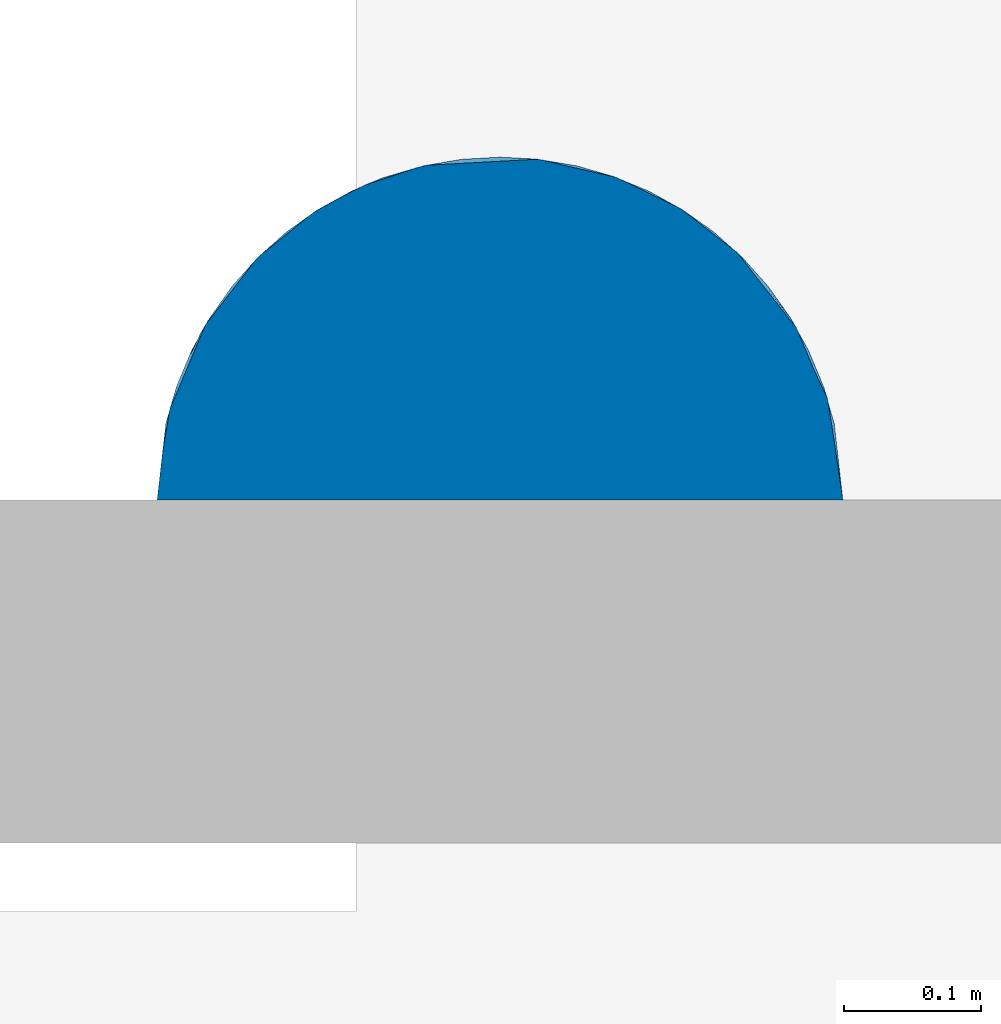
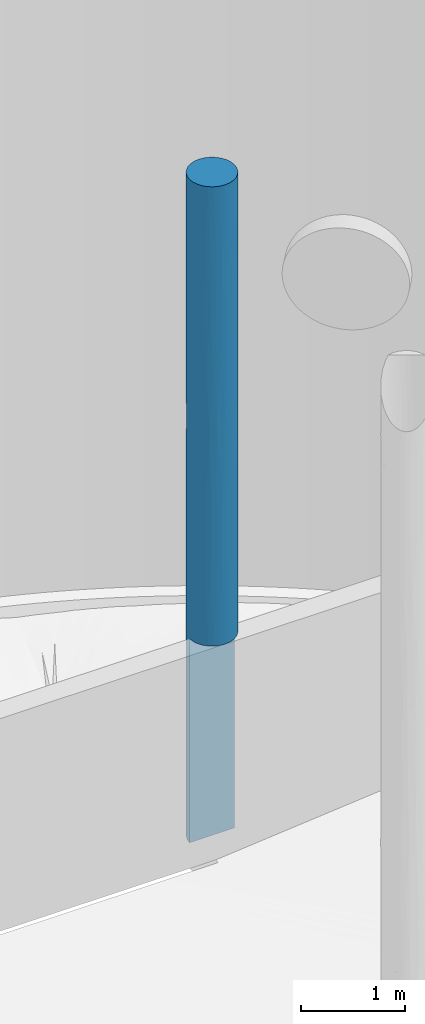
# One storey, part 3 of 5: 1 column.
"""IFC2X3 building model written with IfcOpenShell, lengths in centimetres."""

from ifc_helpers import new_model, entity, si_unit, converted_unit, derived_unit, direction, frame, origin, place, context, subcontext, project, spatial, faceted_brep, source, transform, mapped, material, type_object, type_shapes, element, save


model = new_model("IFC2X3")

# Units and contexts
model_context = context("Model", 3, precision=0.001, world=origin(), true_north=direction((6.12303176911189e-17, 1.0)))
body_context = subcontext(model_context, "Body", "Model", "MODEL_VIEW")
ifc_project = project(units=[si_unit("LENGTHUNIT", "METRE", prefix="CENTI"), si_unit("AREAUNIT", "SQUARE_METRE"), si_unit("VOLUMEUNIT", "CUBIC_METRE"), converted_unit("PLANEANGLEUNIT", "DEGREE", entity("IfcRatioMeasure", 0.0174532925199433), si_unit("PLANEANGLEUNIT", "RADIAN"), dimensions=[0, 0, 0, 0, 0, 0, 0]), si_unit("MASSUNIT", "GRAM", prefix="KILO"), derived_unit("MASSDENSITYUNIT", [(si_unit("MASSUNIT", "GRAM", prefix="KILO"), 1), (si_unit("LENGTHUNIT", "METRE"), -3)]), si_unit("TIMEUNIT", "SECOND"), si_unit("FREQUENCYUNIT", "HERTZ"), si_unit("THERMODYNAMICTEMPERATUREUNIT", "DEGREE_CELSIUS"), derived_unit("THERMALTRANSMITTANCEUNIT", [(si_unit("MASSUNIT", "GRAM", prefix="KILO"), 1), (si_unit("THERMODYNAMICTEMPERATUREUNIT", "KELVIN"), -1), (si_unit("TIMEUNIT", "SECOND"), -3)]), derived_unit("VOLUMETRICFLOWRATEUNIT", [(si_unit("LENGTHUNIT", "METRE"), 3), (si_unit("TIMEUNIT", "SECOND"), -1)]), si_unit("ELECTRICCURRENTUNIT", "AMPERE"), si_unit("ELECTRICVOLTAGEUNIT", "VOLT"), si_unit("POWERUNIT", "WATT"), si_unit("FORCEUNIT", "NEWTON", prefix="KILO"), si_unit("ILLUMINANCEUNIT", "LUX"), si_unit("LUMINOUSFLUXUNIT", "LUMEN"), si_unit("LUMINOUSINTENSITYUNIT", "CANDELA"), derived_unit("USERDEFINED", [(si_unit("MASSUNIT", "GRAM", prefix="KILO"), -1), (si_unit("LENGTHUNIT", "METRE"), -2), (si_unit("TIMEUNIT", "SECOND"), 3), (si_unit("LUMINOUSFLUXUNIT", "LUMEN"), 1)]), derived_unit("LINEARVELOCITYUNIT", [(si_unit("LENGTHUNIT", "METRE"), 1), (si_unit("TIMEUNIT", "SECOND"), -1)]), si_unit("PRESSUREUNIT", "PASCAL"), derived_unit("USERDEFINED", [(si_unit("LENGTHUNIT", "METRE"), -2), (si_unit("MASSUNIT", "GRAM", prefix="KILO"), 1), (si_unit("TIMEUNIT", "SECOND"), -2)])], contexts=[model_context])

# Site, building, storey
site_placement = place(None, origin())
site = spatial("IfcSite", under=ifc_project, at=site_placement, Name="Default", CompositionType="ELEMENT")
building_placement = place(site_placement, origin())
building = spatial("IfcBuilding", under=site, at=building_placement, CompositionType="ELEMENT")
storey_placement = place(building_placement, frame((0.0, 0.0, -870.0)))
storey = spatial("IfcBuildingStorey", under=building, at=storey_placement, Name="Niveau haut radier", CompositionType="ELEMENT", Elevation=-870.000000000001)

# Column
ifc_material = material(Name="Maçonnerie - Béton coulé sur place")
column_type = type_object("IfcColumnType", Name="500mm", PredefinedType="COLUMN")
shared_shape = source(origin(), body_context, "Body", "Brep", [
    faceted_brep([(25.1587499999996, 50.158749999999, 0.0), (30.7217733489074, 49.5319478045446, 0.0), (36.0058434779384, 47.6829716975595, 0.0), (40.7459950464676, 44.7045370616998, 0.0), (44.7045370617, 40.7459950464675, 0.0), (47.6829716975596, 36.0058434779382, 0.0), (49.5319478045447, 30.7217733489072, 0.0), (50.1587499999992, 25.1587499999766, 0.0), (0.158750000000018, 25.1587499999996, 0.0), (0.785552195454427, 30.7217733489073, 0.0), (2.63452830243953, 36.0058434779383, 0.0), (5.61296293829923, 40.7459950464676, 0.0), (9.57150495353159, 44.7045370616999, 0.0), (14.3116565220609, 47.6829716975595, 0.0), (19.5957266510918, 49.5319478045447, 0.0), (48.0549246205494, 35.196936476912, 468.894860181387), (45.3297754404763, 39.9279657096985, 499.978212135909), (48.5082267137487, 34.0919430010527, 556.771990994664), (28.7793310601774, 49.8951885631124, 427.9340429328), (31.6679698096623, 49.2964809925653, 489.80961798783), (33.4157264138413, 48.7558333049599, 390.0), (46.3268549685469, 38.4595519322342, 54.0877681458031), (27.9578618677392, 50.001555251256, 683.264679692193), (21.9944098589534, 49.9576804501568, 669.828678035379), (25.1587499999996, 50.158749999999, 780.0), (48.7558332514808, 33.4157265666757, 76.3591091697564), (20.5205377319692, 49.7247221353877, 343.351262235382), (16.4667614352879, 48.599085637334, 307.933922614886), (16.3862373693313, 48.5690687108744, 369.663796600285), (22.3596380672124, 50.0015552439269, 93.519181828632), (27.7986779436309, 50.0189748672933, 67.2587685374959), (3.99064500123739, 38.4595518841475, 597.386900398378), (9.14411541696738, 44.3559237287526, 577.977128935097), (8.53594770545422, 43.8317905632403, 513.810411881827), (33.4157265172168, 48.7558332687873, 76.3591094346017), (38.4595518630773, 46.3268550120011, 119.311207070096), (38.4595518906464, 46.3268549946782, 54.0877682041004), (47.6829716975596, 36.0058434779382, 780.0), (48.7558332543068, 33.4157265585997, 717.698396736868), (46.3268549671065, 38.4595519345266, 697.93955751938), (50.1587499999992, 25.1587499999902, 559.165217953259), (50.1587499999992, 25.1587499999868, 479.373913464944), (49.6742815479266, 30.056577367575, 510.855154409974), (16.901773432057, 48.7558332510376, 709.507864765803), (14.3116565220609, 47.6829716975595, 780.0), (19.5957266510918, 49.5319478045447, 780.0), (27.9578618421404, 50.0015552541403, 162.511981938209), (50.1587499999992, 25.1587499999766, 240.0), (49.8017239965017, 29.3687182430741, 279.895651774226), (50.1587499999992, 25.15874999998, 319.791304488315), (50.1587499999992, 25.1587499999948, 669.58260897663), (48.7558332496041, 33.4157265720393, 645.517373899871), (38.4595518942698, 46.3268549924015, 725.912231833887), (36.0058434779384, 47.6829716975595, 780.0), (40.7459950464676, 44.7045370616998, 780.0), (49.5319478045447, 30.7217733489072, 780.0), (7.48108045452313, 42.8364195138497, 677.780128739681), (5.61296293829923, 40.7459950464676, 780.0), (9.57150495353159, 44.7045370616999, 780.0), (0.834220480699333, 30.9308608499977, 188.484697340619), (0.158750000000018, 25.1587499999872, 110.417407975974), (0.158750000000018, 25.1587499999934, 175.208543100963), (0.158750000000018, 25.1587499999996, 240.0), (16.5978988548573, 48.6472967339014, 94.7210186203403), (24.0023493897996, 50.131990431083, 241.55338493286), (29.0742546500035, 49.8502226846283, 228.335237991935), (44.7045370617, 40.7459950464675, 780.0), (42.8364195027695, 42.8364195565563, 76.3591093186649), (46.3268549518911, 38.4595519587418, 119.311206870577), (11.8579480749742, 46.3268549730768, 59.7330104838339), (43.1044238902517, 42.5642890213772, 659.887667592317), (42.3348295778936, 43.3241646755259, 722.237216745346), (48.6937738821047, 33.5909887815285, 259.456015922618), (46.7383470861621, 37.7809918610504, 254.650441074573), (48.7408433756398, 33.4584410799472, 319.791305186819), (33.6551248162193, 48.6706962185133, 693.300512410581), (30.7217733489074, 49.5319478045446, 780.0), (33.6842402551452, 48.6601545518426, 153.413008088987), (50.1587499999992, 25.1587499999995, 780.0), (50.1587499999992, 25.158749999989, 110.417390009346), (1.56166673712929, 33.4157265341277, 103.339168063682), (1.5616667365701, 33.4157265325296, 677.780128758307), (0.571591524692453, 29.6833094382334, 614.373914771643), (0.158750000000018, 25.1587499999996, 669.582391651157), (31.4036444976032, 49.3662135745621, 631.577320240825), (27.9578618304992, 50.001555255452, 579.889960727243), (0.158750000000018, 25.1587499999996, 319.79144509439), (0.745295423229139, 30.5423580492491, 279.895652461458), (0.785552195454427, 30.7217733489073, 780.0), (0.158750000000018, 25.1587499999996, 700.209671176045), (0.158750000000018, 25.1587499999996, 780.0), (46.0769491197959, 38.8492191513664, 612.67412008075), (35.2154365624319, 48.0468048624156, 574.920058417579), (22.0004160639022, 49.9584461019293, 591.38083708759), (24.2576958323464, 50.1425067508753, 522.419313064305), (7.48108045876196, 42.8364195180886, 80.2190219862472), (11.8579480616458, 46.326854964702, 129.709026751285), (7.48897255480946, 42.8443080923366, 158.442496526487), (2.63452830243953, 36.0058434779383, 780.0), (19.5246383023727, 49.5156132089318, 167.805675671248), (3.84866567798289, 38.2308694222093, 69.7210057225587), (16.9017734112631, 48.7558332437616, 630.149491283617), (5.40763228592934, 40.4849807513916, 487.882534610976), (1.43813419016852, 33.0538361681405, 515.068583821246), (3.99064501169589, 38.4595519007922, 709.39370388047), (1.90363247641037, 34.3347790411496, 616.086547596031), (12.1973110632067, 46.536334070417, 669.828678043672), (42.4722370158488, 43.1932493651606, 148.454653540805), (49.1074422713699, 32.3323222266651, 184.82367766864), (0.613374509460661, 29.9047527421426, 359.68695737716), (0.74258536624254, 30.5300538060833, 440.792590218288), (2.16064177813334, 34.961148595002, 386.191695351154), (3.29247976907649, 37.2775876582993, 128.558044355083), (49.7388032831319, 29.7217512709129, 571.607170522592), (38.4595518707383, 46.3268550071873, 660.688793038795), (47.0507958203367, 37.2309631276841, 185.961518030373), (42.8364194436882, 42.8364196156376, 220.550197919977), (49.7185636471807, 29.8294623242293, 368.069752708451), (48.3391221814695, 34.5219943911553, 393.914767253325), (45.8191931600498, 39.235187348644, 423.176851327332), (43.521690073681, 42.1234908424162, 296.652677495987), (39.7234050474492, 45.4779730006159, 262.044730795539), (49.6690000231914, 30.0829396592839, 439.478264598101), (4.31177524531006, 38.9574326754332, 414.843715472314), (4.20350777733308, 38.7924517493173, 344.938885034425), (46.3611619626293, 38.4047957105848, 344.079130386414), (43.0611145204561, 42.6088315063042, 373.341214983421), (39.1739405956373, 45.8607893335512, 462.745991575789), (16.4394588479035, 48.5889433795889, 539.54449342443), (12.7524384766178, 46.8632065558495, 606.491733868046), (11.8579480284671, 46.3268549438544, 477.689167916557), (12.2416850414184, 46.5631755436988, 384.550433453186), (7.50501416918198, 42.8603208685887, 414.753198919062), (0.158750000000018, 25.1587499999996, 559.165281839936), (0.158750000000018, 25.1587499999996, 620.418002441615), (7.61439652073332, 42.968737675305, 330.837985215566), (12.1109107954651, 46.483709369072, 291.248949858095), (11.1495496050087, 45.8648434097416, 208.357149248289), (7.0161190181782, 42.3588936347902, 244.772803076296), (27.6698377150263, 50.0323190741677, 324.032615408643), (33.2880753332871, 48.8001135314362, 265.137931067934), (23.4137073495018, 50.0977721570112, 448.245322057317), (17.0351058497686, 48.8020663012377, 435.634812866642), (2.37627978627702, 35.4523912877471, 454.791033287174), (0.158750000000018, 25.1587499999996, 479.373836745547), (2.82367399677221, 36.3901515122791, 284.97295456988), (14.8810948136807, 47.9484363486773, 176.035737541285), (16.9017733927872, 48.7558332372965, 243.016576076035), (38.2505909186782, 46.4567241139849, 325.404922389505), (38.2124655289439, 46.4801127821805, 198.898409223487), (38.2233176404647, 46.4734649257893, 394.861269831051), (38.5970716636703, 46.2398199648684, 529.561062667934), (39.4981649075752, 45.6375483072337, 595.487672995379), (42.8364194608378, 42.836419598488, 559.449802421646), (50.1587499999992, 25.1587499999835, 399.582608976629), (33.9096755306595, 48.5771466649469, 327.460637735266), (42.7177203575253, 42.9543269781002, 437.712707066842), (50.1587499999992, 25.1587499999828, 175.208695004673), (3.99064500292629, 38.4595518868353, 186.430515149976), (0.158750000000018, 25.1587499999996, 350.418002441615), (0.158749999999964, 25.1587499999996, 399.582391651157), (0.158750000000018, 25.1587499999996, 540.626333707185), (0.158750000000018, 25.1587499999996, 460.834664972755), (0.785552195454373, 19.5957266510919, 240.0), (2.63452830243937, 14.3116565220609, 240.0), (1.56166674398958, 16.9017734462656, 302.30160358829), (36.0058434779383, 2.63452830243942, 780.0), (30.7217733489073, 0.785552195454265, 780.0), (33.4157265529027, 1.56166674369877, 698.693818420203), (33.6769954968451, 1.65471856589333, 336.898645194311), (33.8881874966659, 1.73233497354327, 416.400053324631), (27.9578619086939, 0.315944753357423, 411.90584183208), (9.57150495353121, 5.61296293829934, 240.0), (7.48108047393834, 7.48108046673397, 321.75250980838), (5.61296293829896, 9.57150495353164, 240.0), (19.5957266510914, 0.785552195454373, 240.0), (16.9017734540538, 1.56166674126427, 301.25767982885), (14.3116565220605, 2.63452830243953, 240.0), (1.56166674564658, 16.9017734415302, 374.482626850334), (3.84788248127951, 12.0879074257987, 338.392115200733), (3.73714774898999, 12.2701908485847, 417.802409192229), (11.8579480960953, 3.9906450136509, 637.618831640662), (15.7445324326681, 1.99903265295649, 698.9283551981), (11.295842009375, 4.35442876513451, 717.734714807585), (10.9120814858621, 4.61532194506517, 482.38411957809), (12.4530192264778, 3.62820412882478, 411.482359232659), (16.7655443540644, 1.60977764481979, 441.269805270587), (12.0913324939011, 3.84578212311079, 336.898645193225), (7.48108047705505, 7.48108046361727, 411.262750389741), (27.9578619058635, 0.315944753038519, 322.08856618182), (22.0842137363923, 0.34852576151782, 336.898645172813), (25.1587499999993, 0.158749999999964, 240.0), (40.7459950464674, 5.61296293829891, 240.0), (44.7045370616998, 9.57150495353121, 240.0), (42.8364195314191, 7.48108047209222, 321.306181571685), (30.721773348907, 0.785552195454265, 240.0), (1.2256012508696, 17.9334893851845, 469.038607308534), (16.2192746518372, 1.81167779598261, 615.599763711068), (1.56166674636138, 16.9017734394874, 666.906562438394), (49.5319478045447, 19.5957266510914, 240.0), (49.5319478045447, 19.5957266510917, 780.0), (2.63452830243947, 14.3116565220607, 780.0), (0.785552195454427, 19.5957266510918, 780.0), (40.7459950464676, 5.61296293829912, 780.0), (38.4595519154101, 3.99064502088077, 718.742320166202), (16.9017734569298, 1.56166674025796, 372.539610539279), (48.7558332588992, 16.9017734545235, 682.454014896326), (47.6829716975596, 14.3116565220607, 780.0), (3.99064502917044, 11.8579480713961, 570.464191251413), (3.97110005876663, 11.8891045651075, 683.356573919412), (9.57150495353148, 5.61296293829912, 780.0), (7.4810804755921, 7.48108046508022, 694.812371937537), (38.4595519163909, 3.99064502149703, 372.539610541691), (38.4595519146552, 3.99064502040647, 301.257679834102), (42.8364195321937, 7.4810804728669, 698.693818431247), (38.4595519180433, 3.99064502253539, 647.460389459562), (27.9578619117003, 0.315944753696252, 608.094158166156), (27.7780626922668, 0.296344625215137, 711.674718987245), (43.6093854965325, 8.2894272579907, 537.443272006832), (42.7665983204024, 7.41153394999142, 623.034304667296), (38.4034854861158, 3.95551954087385, 578.730194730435), (21.8610454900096, 0.377201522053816, 416.400053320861), (5.77149468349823, 9.37476028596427, 492.366957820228), (8.43174775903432, 6.57899230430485, 567.062797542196), (36.0058434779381, 2.63452830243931, 240.0), (46.4225260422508, 12.0114374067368, 308.325281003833), (46.3268549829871, 11.8579480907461, 411.905841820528), (47.6829716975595, 14.3116565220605, 240.0), (48.7558332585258, 16.9017734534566, 337.545985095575), (5.61296293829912, 9.57150495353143, 780.0), (2.90864189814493, 13.7599478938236, 506.836323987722), (0.94169165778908, 18.9511671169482, 580.521737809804), (49.1699340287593, 18.1972098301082, 581.581471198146), (33.9319172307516, 1.74867659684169, 601.35314738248), (29.6841224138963, 0.57174114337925, 545.124653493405), (22.3596381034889, 0.315944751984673, 682.454014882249), (25.1587499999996, 0.158749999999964, 780.0), (19.5957266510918, 0.785552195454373, 780.0), (25.3249148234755, 0.159302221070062, 510.0), (30.6890899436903, 0.77811546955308, 479.53607306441), (44.7045370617, 9.57150495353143, 780.0), (42.4811351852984, 7.13279727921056, 451.343392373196), (47.4307640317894, 13.8028092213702, 510.0), (49.2162195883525, 18.3588855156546, 429.931176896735), (46.2874365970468, 11.7954194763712, 681.950367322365), (16.9017734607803, 1.56166673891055, 510.0), (20.8009088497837, 0.541495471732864, 589.471684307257), (6.13659880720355, 8.93661191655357, 626.368372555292), (14.3116565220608, 2.63452830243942, 780.0), (13.1841589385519, 3.21315433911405, 564.401178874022), (46.3268549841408, 11.8579480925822, 608.094158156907), (42.3422563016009, 7.00036044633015, 386.040080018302), (38.3119981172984, 3.89864501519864, 441.269805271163), (34.1457616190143, 1.82993472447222, 523.238121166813), (49.4763645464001, 19.3575757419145, 505.965337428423), (38.4595519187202, 3.99064502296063, 510.0)], [[[0, 1, 2, 3, 4, 5, 6, 7, 8, 9, 10, 11, 12, 13, 14]], [[15, 16, 17]], [[18, 19, 20]], [[4, 21, 5]], [[22, 23, 24]], [[5, 21, 25]], [[26, 27, 28]], [[29, 30, 0]], [[31, 32, 33]], [[34, 35, 36]], [[37, 38, 39]], [[2, 36, 3]], [[40, 41, 42]], [[43, 44, 45]], [[46, 34, 30]], [[47, 48, 49]], [[50, 51, 38]], [[52, 53, 54]], [[14, 29, 0]], [[55, 38, 37]], [[56, 57, 58]], [[59, 60, 61, 62]], [[14, 13, 63]], [[46, 64, 65]], [[37, 39, 66]], [[67, 68, 21]], [[13, 12, 69]], [[70, 71, 39]], [[72, 73, 74]], [[53, 75, 76]], [[35, 34, 77]], [[55, 78, 50]], [[7, 6, 79]], [[80, 10, 9]], [[81, 82, 83]], [[84, 85, 22]], [[62, 86, 87]], [[9, 8, 60]], [[88, 83, 89, 90]], [[59, 62, 87]], [[70, 39, 91]], [[60, 80, 9]], [[85, 92, 19]], [[93, 85, 94]], [[95, 12, 11]], [[96, 95, 97]], [[81, 88, 98]], [[24, 76, 22]], [[46, 99, 64]], [[10, 80, 100]], [[101, 43, 23]], [[99, 46, 29]], [[93, 101, 23]], [[31, 102, 103]], [[67, 4, 3]], [[104, 31, 105]], [[44, 106, 58]], [[32, 56, 106]], [[56, 104, 57]], [[107, 68, 67]], [[79, 25, 108]], [[95, 96, 69]], [[34, 2, 1]], [[109, 110, 111]], [[47, 108, 48]], [[5, 25, 6]], [[104, 81, 98]], [[112, 97, 95]], [[106, 44, 43]], [[32, 31, 56]], [[103, 82, 105]], [[83, 88, 81]], [[53, 52, 75]], [[85, 93, 23]], [[63, 13, 69]], [[29, 63, 99]], [[91, 39, 51]], [[113, 50, 40]], [[71, 70, 114]], [[11, 10, 100]], [[100, 112, 95]], [[1, 0, 30]], [[77, 34, 46]], [[36, 67, 3]], [[107, 67, 35]], [[25, 68, 108]], [[79, 6, 25]], [[73, 115, 116]], [[49, 48, 117]], [[118, 119, 15]], [[120, 73, 116]], [[121, 120, 116]], [[15, 122, 118]], [[17, 16, 91]], [[123, 124, 111]], [[45, 24, 23]], [[106, 43, 101]], [[50, 38, 55]], [[39, 38, 51]], [[25, 21, 68]], [[119, 125, 126]], [[20, 19, 127]], [[23, 43, 45]], [[85, 23, 22]], [[128, 32, 129]], [[58, 106, 56]], [[101, 129, 106]], [[33, 32, 130]], [[131, 132, 130]], [[82, 133, 134, 83]], [[135, 131, 136]], [[137, 97, 138]], [[18, 94, 19]], [[128, 101, 93]], [[139, 140, 65]], [[141, 142, 128]], [[128, 93, 94]], [[32, 128, 130]], [[110, 143, 111]], [[110, 144, 103]], [[111, 143, 123]], [[145, 124, 138]], [[95, 69, 12]], [[63, 69, 96]], [[96, 137, 146]], [[14, 63, 29]], [[146, 63, 96]], [[99, 147, 64]], [[64, 147, 27]], [[26, 139, 64]], [[120, 148, 126]], [[149, 35, 77]], [[147, 137, 136]], [[18, 139, 26]], [[94, 85, 19]], [[128, 94, 141]], [[75, 84, 22]], [[126, 148, 150]], [[151, 19, 92]], [[119, 16, 15]], [[114, 152, 92]], [[92, 152, 151]], [[91, 51, 17]], [[153, 152, 70]], [[40, 42, 113]], [[41, 122, 42]], [[117, 74, 118]], [[154, 122, 41]], [[42, 15, 17]], [[125, 118, 74]], [[118, 125, 119]], [[73, 125, 74]], [[120, 126, 125]], [[72, 74, 48]], [[73, 72, 115]], [[73, 120, 125]], [[116, 149, 121]], [[140, 155, 148]], [[148, 155, 150]], [[126, 156, 119]], [[16, 127, 153]], [[16, 119, 156]], [[16, 153, 91]], [[15, 42, 122]], [[42, 17, 113]], [[65, 77, 46]], [[149, 116, 107]], [[77, 140, 149]], [[121, 140, 148]], [[153, 70, 91]], [[114, 52, 71]], [[117, 122, 154]], [[79, 108, 47, 157]], [[117, 48, 74]], [[122, 117, 118]], [[49, 117, 154]], [[52, 54, 71]], [[75, 52, 114]], [[84, 114, 92]], [[76, 75, 22]], [[54, 66, 71]], [[39, 71, 66]], [[34, 36, 2]], [[67, 36, 35]], [[67, 21, 4]], [[114, 84, 75]], [[92, 85, 84]], [[158, 138, 97]], [[137, 96, 97]], [[138, 158, 145]], [[136, 137, 138]], [[112, 59, 158]], [[109, 145, 87]], [[136, 138, 135]], [[146, 147, 99]], [[87, 86, 109]], [[109, 86, 159, 160]], [[59, 145, 158]], [[59, 87, 145]], [[60, 59, 80]], [[135, 132, 131]], [[27, 147, 136]], [[142, 131, 130]], [[131, 28, 27]], [[110, 109, 160]], [[109, 111, 145]], [[103, 144, 161, 133]], [[143, 110, 103]], [[110, 160, 162, 144]], [[128, 142, 130]], [[26, 142, 141]], [[145, 111, 124]], [[132, 102, 33]], [[48, 108, 72]], [[115, 72, 108]], [[149, 107, 35]], [[107, 116, 115]], [[18, 26, 141]], [[155, 139, 20]], [[150, 156, 126]], [[16, 156, 127]], [[17, 51, 113]], [[50, 113, 51]], [[140, 121, 149]], [[120, 121, 148]], [[103, 102, 143]], [[123, 102, 132]], [[102, 123, 143]], [[124, 132, 135]], [[132, 124, 123]], [[138, 124, 135]], [[128, 129, 101]], [[32, 106, 129]], [[147, 146, 137]], [[63, 146, 99]], [[57, 104, 98]], [[31, 104, 56]], [[105, 82, 81]], [[103, 133, 82]], [[112, 100, 80]], [[11, 100, 95]], [[46, 30, 29]], [[1, 30, 34]], [[132, 33, 130]], [[31, 33, 102]], [[139, 65, 64]], [[77, 65, 140]], [[139, 18, 20]], [[94, 18, 141]], [[70, 152, 114]], [[151, 153, 127]], [[153, 151, 152]], [[19, 151, 127]], [[108, 68, 115]], [[115, 68, 107]], [[139, 155, 140]], [[150, 155, 20]], [[20, 127, 150]], [[150, 127, 156]], [[131, 27, 136]], [[64, 27, 26]], [[131, 142, 28]], [[142, 26, 28]], [[104, 105, 81]], [[103, 105, 31]], [[59, 112, 80]], [[97, 112, 158]], [[163, 164, 165]], [[166, 167, 168]], [[169, 170, 171]], [[172, 173, 174]], [[175, 176, 177]], [[178, 179, 180]], [[181, 182, 183]], [[184, 185, 186]], [[187, 188, 173]], [[189, 190, 191]], [[192, 193, 194]], [[189, 191, 195]], [[180, 196, 178]], [[179, 178, 165]], [[182, 181, 197]], [[178, 162, 160, 159, 165]], [[198, 89, 83, 134]], [[49, 199, 47]], [[50, 78, 200]], [[198, 201, 202]], [[203, 166, 204]], [[205, 176, 190]], [[206, 200, 207]], [[202, 89, 198]], [[208, 209, 198]], [[165, 159, 163]], [[183, 210, 211]], [[194, 212, 213]], [[214, 204, 215]], [[216, 168, 217]], [[218, 219, 220]], [[205, 190, 221]], [[174, 173, 179]], [[222, 223, 208]], [[213, 224, 192]], [[225, 226, 194]], [[172, 177, 187]], [[227, 199, 228]], [[211, 210, 229]], [[227, 228, 225]], [[230, 222, 208]], [[196, 230, 231]], [[50, 206, 232]], [[195, 224, 169]], [[233, 216, 234]], [[235, 236, 237]], [[217, 236, 235]], [[215, 204, 168]], [[234, 238, 239]], [[199, 49, 228]], [[240, 203, 214]], [[241, 242, 218]], [[242, 241, 226]], [[203, 204, 214]], [[226, 243, 242]], [[240, 244, 207]], [[245, 221, 238]], [[196, 231, 161]], [[171, 189, 169]], [[226, 228, 243]], [[235, 246, 216]], [[244, 240, 214]], [[247, 209, 208]], [[182, 237, 248]], [[245, 197, 249]], [[226, 225, 228]], [[243, 228, 154]], [[206, 250, 232]], [[50, 200, 206]], [[229, 201, 209]], [[223, 247, 208]], [[224, 213, 169]], [[171, 221, 190]], [[177, 176, 187]], [[188, 180, 179]], [[193, 227, 225]], [[163, 159, 86, 62]], [[89, 202, 90]], [[251, 226, 241]], [[167, 236, 217]], [[233, 168, 216]], [[219, 214, 215]], [[206, 244, 250]], [[164, 174, 179]], [[179, 165, 164]], [[188, 179, 173]], [[222, 180, 188]], [[178, 196, 162]], [[230, 180, 222]], [[231, 134, 133, 161]], [[188, 184, 222]], [[249, 184, 245]], [[188, 187, 185]], [[223, 249, 181]], [[184, 223, 222]], [[247, 181, 211]], [[175, 191, 190]], [[187, 176, 205]], [[190, 176, 175]], [[171, 190, 189]], [[187, 205, 185]], [[172, 187, 173]], [[238, 221, 171]], [[186, 221, 245]], [[171, 170, 239]], [[238, 216, 246]], [[194, 213, 192]], [[169, 213, 212]], [[169, 212, 170]], [[195, 169, 189]], [[212, 252, 170]], [[171, 239, 238]], [[168, 204, 166]], [[186, 185, 205]], [[188, 185, 184]], [[253, 170, 252]], [[238, 234, 216]], [[198, 134, 231]], [[196, 161, 144, 162]], [[208, 198, 231]], [[249, 197, 181]], [[238, 246, 245]], [[221, 186, 205]], [[184, 186, 245]], [[254, 40, 232]], [[242, 232, 250]], [[239, 253, 234]], [[218, 242, 250]], [[242, 243, 254]], [[232, 40, 50]], [[250, 244, 219]], [[218, 255, 241]], [[252, 241, 255]], [[194, 251, 212]], [[254, 232, 242]], [[243, 154, 41]], [[233, 220, 215]], [[233, 234, 253]], [[168, 233, 215]], [[170, 253, 239]], [[253, 255, 220]], [[252, 212, 251]], [[253, 252, 255]], [[253, 220, 233]], [[218, 220, 255]], [[220, 219, 215]], [[218, 250, 219]], [[184, 249, 223]], [[197, 245, 246]], [[246, 235, 197]], [[210, 183, 248]], [[197, 235, 182]], [[237, 182, 235]], [[243, 41, 254]], [[40, 254, 41]], [[181, 247, 223]], [[247, 211, 209]], [[229, 209, 211]], [[201, 198, 209]], [[49, 154, 228]], [[193, 225, 194]], [[216, 217, 235]], [[167, 217, 168]], [[207, 244, 206]], [[219, 244, 214]], [[231, 230, 208]], [[180, 230, 196]], [[226, 251, 194]], [[252, 251, 241]], [[181, 183, 211]], [[248, 183, 182]], [[167, 166, 203, 240, 207, 200, 78, 55, 37, 66, 54, 53, 76, 24, 45, 44, 58, 57, 98, 88, 90, 202, 201, 229, 210, 248, 237, 236]], [[8, 7, 79, 157, 47, 62, 61, 60]], [[224, 195, 191, 175, 177, 172, 174, 164, 163, 62, 47, 199, 227, 193, 192]]]),
])
type_shapes(column_type, [shared_shape])
column_placement = place(storey_placement, frame((302.84125000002, 521.841249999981, -40.0)))
element("IfcColumn", 1, at=column_placement, inside=storey, type_object=column_type, material=ifc_material, Name="Poteau béton - Arrondi:500mm", ObjectType="500mm", context=body_context, shape_type="MappedRepresentation", body=[
    mapped(shared_shape, transform((0.0, 0.0, 0.0), scale=1.0)),
])

save(model, "model.ifc")
